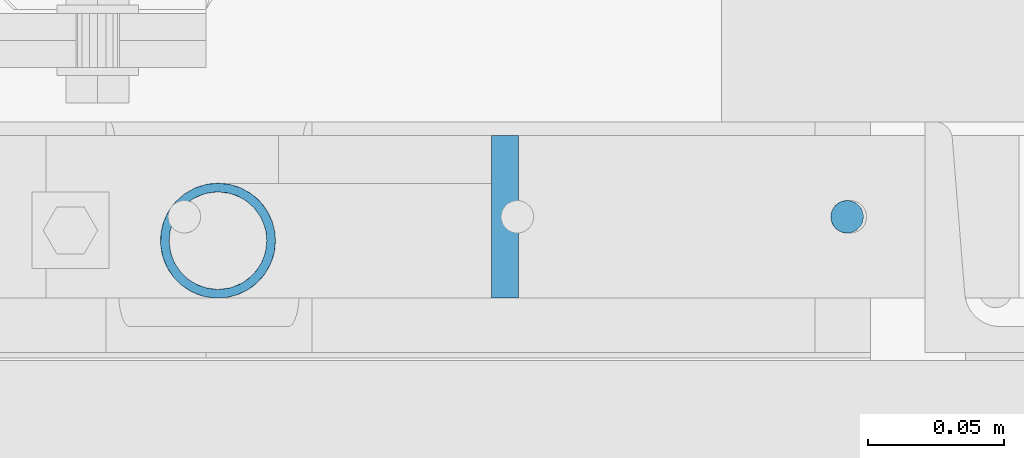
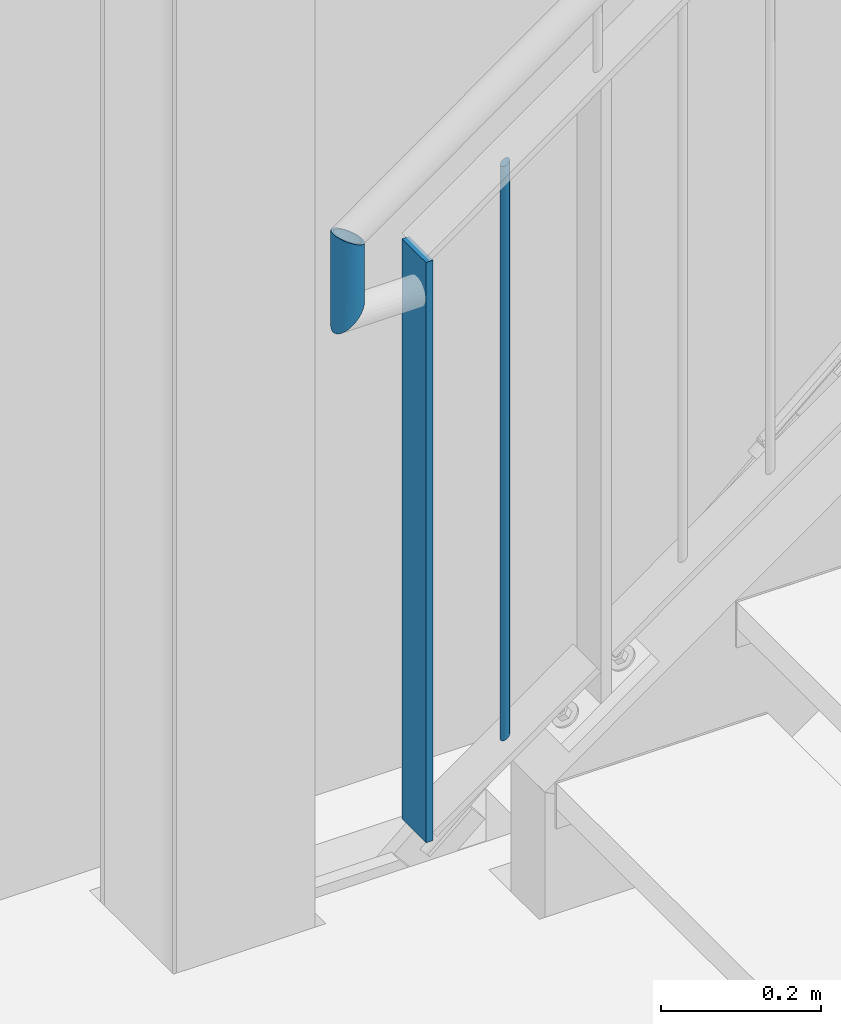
# One storey, part 68 of 817: 3 columns.
"""IFC2X3 building model written with IfcOpenShell, lengths in millimetres."""

from ifc_helpers import new_model, entity, si_unit, converted_unit, frame, origin, origin_with_axes, origin_2d, place, context, project, spatial, rectangle, circle, hollow_circle, extrude, clip, halfspace, material, element, save


model = new_model("IFC2X3")

# Units and contexts
model_context = context("Model", 3, precision=1e-09, world=origin_with_axes())
ifc_project = project(units=[si_unit("LENGTHUNIT", "METRE", prefix="MILLI"), si_unit("AREAUNIT", "SQUARE_METRE"), si_unit("VOLUMEUNIT", "CUBIC_METRE"), converted_unit("PLANEANGLEUNIT", "DEGREE", entity("IfcPlaneAngleMeasure", 0.01745329), si_unit("PLANEANGLEUNIT", "RADIAN"), dimensions=[0, 0, 0, 0, 0, 0, 0])], contexts=[model_context])

# Site, building, storey
site_placement = place(None, origin_with_axes())
site = spatial("IfcSite", under=ifc_project, at=site_placement, Name="Cnopf'sche Kinderklinik", CompositionType="ELEMENT")
building_placement = place(site_placement, origin_with_axes())
building = spatial("IfcBuilding", under=site, at=building_placement, Name="Struktur 1", CompositionType="ELEMENT")
storey_placement = place(building_placement, origin_with_axes())
storey = spatial("IfcBuildingStorey", under=building, at=storey_placement, Name="Default Storey", CompositionType="ELEMENT", Elevation=0.0)

# Columns
ifc_material = material(Name="S235JR")
column_1_placement = place(None, frame((5193.044323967, 7356.736971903, 1496.132045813), z_axis=(0.0, 0.0, 1.0), x_axis=(1.0, 0.0, 0.0)))
element("IfcColumn", 1, at=column_1_placement, inside=storey, material=ifc_material, Name="Railing_Picket_Stair#7", ObjectType="Railing_Picket_Stair#7", context=model_context, shape_type="Clipping", body=[
    clip(clip(extrude(circle(Radius=6.0, at=origin_2d()), origin(), (0.0, 0.0, -1.0), 896.604693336), halfspace(frame((-4148.212425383, -7356.736971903, -2963.709406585), z_axis=(0.579973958, 0.0, -0.814635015), x_axis=(0.0, 1.0, 0.0)), True)), halfspace(frame((-3734.439855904, -7356.736971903, -3544.896922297), z_axis=(-0.579973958, 0.0, 0.814635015), x_axis=(0.0, -1.0, 0.0)), True)),
])
column_2_placement = place(None, frame((5066.878639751, 7356.736971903, 1396.462546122), z_axis=(0.0, 0.0, 1.0), x_axis=(1.0, 0.0, 0.0)))
element("IfcColumn", 2, at=column_2_placement, inside=storey, material=ifc_material, Name="Railing_Post_Stair#0", ObjectType="Railing_Post_Stair#0", context=model_context, shape_type="SweptSolid", body=[
    extrude(rectangle(XDim=10.0, YDim=60.0, at=origin_2d()), origin(), (0.0, 0.0, -1.0), 885.057676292),
])
column_3_placement = place(None, frame((4961.101665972, 7347.936971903, 1298.8000007), z_axis=(0.0, 0.0, -1.0), x_axis=(1.0, 0.0, 0.0)))
element("IfcColumn", 3, at=column_3_placement, inside=storey, material=ifc_material, Name="Railing_Handrail_Landing#0", ObjectType="Railing_Handrail_Landing#0", context=model_context, shape_type="Clipping", body=[
    clip(clip(extrude(hollow_circle(Radius=21.2, WallThickness=3.2, at=origin_2d()), origin(), (0.0, 0.0, -1.0), 193.817233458), halfspace(frame((-3151.151540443, 7347.936971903, 3108.750126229), z_axis=(-0.707106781, 0.0, -0.707106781), x_axis=(0.0, 1.0, 0.0)), True)), halfspace(frame((-3324.976639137, 7347.936971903, -1874.443088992), z_axis=(-0.458271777, 0.0, 0.888812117), x_axis=(0.0, 1.0, 0.0)), True)),
])

save(model, "model.ifc")
